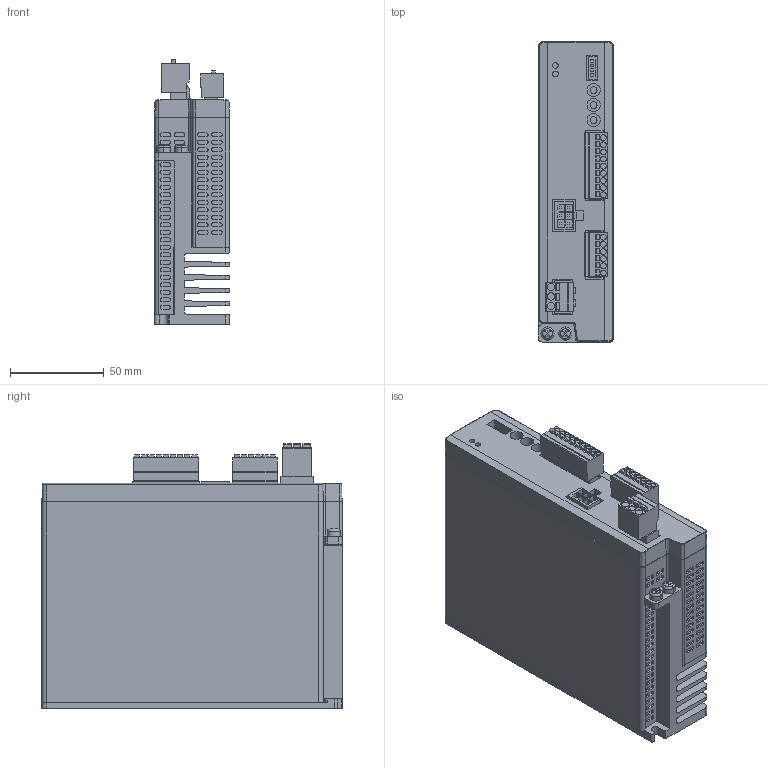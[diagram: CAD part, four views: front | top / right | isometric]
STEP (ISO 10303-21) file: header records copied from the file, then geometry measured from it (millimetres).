
FILE_DESCRIPTION (( 'STEP AP203' ), '1' );
FILE_NAME ('RKSD5_-_2.STEP', '2016-01-18T04:52:34', ( 'om' ), ( 'Hewlett-Packard Company' ), 'SwSTEP 2.0', 'SolidWorks 2014', '' );
FILE_SCHEMA (( 'CONFIG_CONTROL_DESIGN' ));
Length unit declared in the file: millimetre
Products named in the file (1): RKSD5_-_2
Bounding box: 40 x 160 x 141 mm (x, y, z)
Volume: 670209.3 mm3; surface area: 109361.7 mm2
Topology: 1 solids, 3 shells, 1228 faces, 3086 edges, 2031 vertices
Faces by surface type: plane 786, cylinder 222, bspline 200, cone 12, torus 4, sphere 4
Entity records: 48356 total; most frequent: CARTESIAN_POINT 19956, ORIENTED_EDGE 6160, DIRECTION 5107, EDGE_CURVE 3080, VECTOR 2203, LINE 2203, VERTEX_POINT 2031, AXIS2_PLACEMENT_3D 1452
